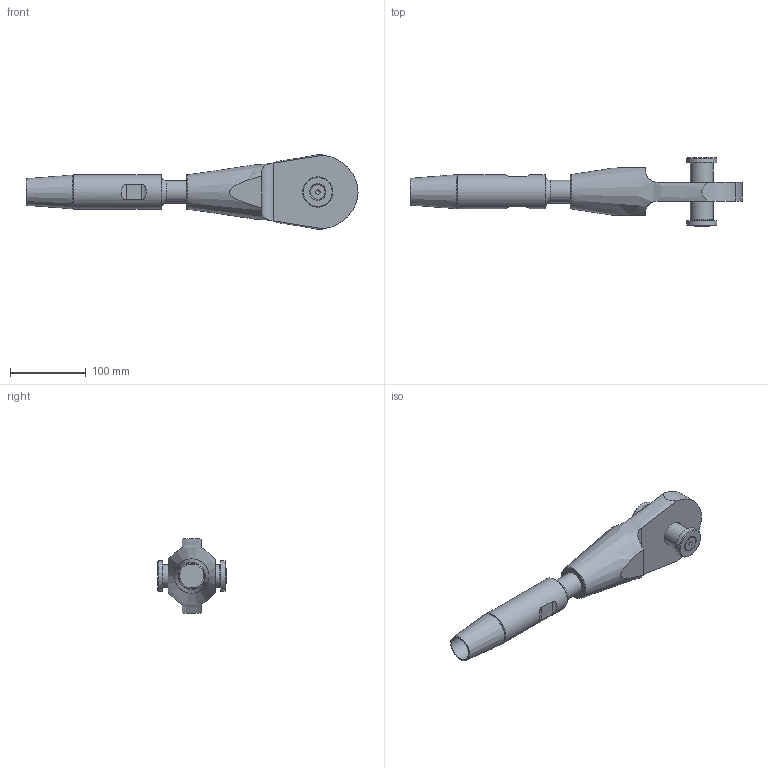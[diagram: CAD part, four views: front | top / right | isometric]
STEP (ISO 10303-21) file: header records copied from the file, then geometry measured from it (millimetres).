
FILE_DESCRIPTION(/* description */ (''),/* implementation_level */ '2;1');
FILE_NAME(/* name */ 'C:\Vault_WS\Designs\SB\01-PX\Verzinkt\ZSS\520 - Zusambau-OES-ADA\520-030-OES-ADA.stp',/* time_stamp */ '2020-10-07T15:35:29+02:00',/* author */ ('schwarz'),/* organization */ (''),/* preprocessor_version */ 'ST-DEVELOPER v18.1',/* originating_system */ 'Autodesk Inventor 2020',/* authorisation */ '');
FILE_SCHEMA (('AUTOMOTIVE_DESIGN { 1 0 10303 214 3 1 1 }'));
Length unit declared in the file: millimetre
Products named in the file (1): 520-030-OES-ADA-Kunde
Bounding box: 437.5 x 90.75 x 98.25 mm (x, y, z)
Volume: 893155.5 mm3; surface area: 109665.3 mm2
Topology: 6 solids, 6 shells, 63 faces, 152 edges, 106 vertices
Faces by surface type: plane 28, cylinder 20, cone 13, torus 2
Full cylindrical faces by diameter (mm): 8.376 x1, 10 x1, 11 x1, 19.22 x1, 30 x2, 31.5 x1, 33 x1, 40 x2, 45 x1
Entity records: 2165 total; most frequent: CARTESIAN_POINT 540, DIRECTION 316, ORIENTED_EDGE 300, EDGE_CURVE 150, AXIS2_PLACEMENT_3D 132, VERTEX_POINT 106, EDGE_LOOP 74, STYLED_ITEM 69
